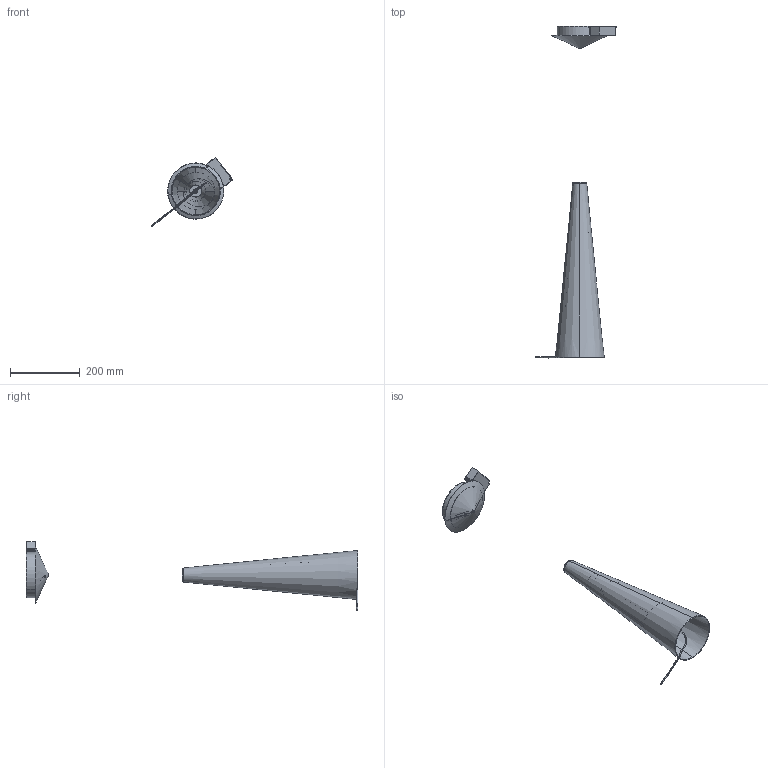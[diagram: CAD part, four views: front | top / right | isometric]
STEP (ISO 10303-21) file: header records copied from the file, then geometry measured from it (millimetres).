
FILE_DESCRIPTION (( 'STEP AP214' ), '1' );
FILE_NAME ('21010ME_Tavolo 50.STEP', '2023-11-21T16:07:14', ( '' ), ( '' ), 'SwSTEP 2.0', 'SolidWorks 2023', '' );
FILE_SCHEMA (( 'AUTOMOTIVE_DESIGN' ));
Length unit declared in the file: millimetre
Products named in the file (31): VIT-TSP_IC_VIT-0078; 521M007_00; VIT-TSP_EI_VIT-0140; VIT-TC_IC_VIT-0027; RAN-Dent_Con_RAN-107; Cavo tavolo_00; RAN-Dent_Est_RAN-101; VIT-TSP_IC_VIT-0146; MIN-0211_01; TRA-0233_00; Morsetto a vite Mammut_M093H_MOR-015 x 2; 521M008_00; 210E00x_210E003; 210V001_210V003; 21010ME_Tavolo 50; 210M001_00; 210M003_00; MIN-0089; Morsetto a vite Mammut_M093H_MOR-009; VIT-TSP_IC_VIT-0040; O-R_O-R024; 210M002_00; GRA-018_Steab_5408-10; DAD-DadiEsagonali_DAD-103; 210E001_258; DAD-DadiEsagonali_DAD-0108; DAD-DadiEsagonali_DAD-002; 210A002_MONTATURA - ROSONE USA; MIN-0211_Steab 5100-7-08-11; 521M006_FORI SVASATI; TRA-0241_00
Assembly tree (46 placements, depth 4):
  21010ME_Tavolo 50
    210V001_210V003
    210E001_258
    210E00x_210E003
    210M001_00
    210M002_00
    Cavo tavolo_00
    210M003_00
    O-R_O-R024
    VIT-TC_IC_VIT-0027
    210A002_MONTATURA - ROSONE USA
      521M006_FORI SVASATI
      521M007_00
      TRA-0241_00
      521M008_00
      MIN-0211_01
        MIN-0211_Steab 5100-7-08-11
        GRA-018_Steab_5408-10
      DAD-DadiEsagonali_DAD-002
      Morsetto a vite Mammut_M093H_MOR-009
      Morsetto a vite Mammut_M093H_MOR-015 x 2
      VIT-TSP_EI_VIT-0140
      TRA-0233_00
      RAN-Dent_Est_RAN-101  x4
      MIN-0089
      VIT-TSP_IC_VIT-0078  x3
      VIT-TSP_IC_VIT-0040  x4
      DAD-DadiEsagonali_DAD-103  x7
      RAN-Dent_Con_RAN-107
      VIT-TSP_IC_VIT-0146  x2
      DAD-DadiEsagonali_DAD-0108  x2
Bounding box: 233.08 x 951.21 x 197.95 mm (x, y, z)
Volume: 611851.8 mm3; surface area: 591637.4 mm2
Topology: 74 solids, 74 shells, 2320 faces, 5573 edges, 3413 vertices
Faces by surface type: plane 977, bspline 469, cone 415, cylinder 363, torus 80, sphere 16
Entity records: 51073 total; most frequent: CARTESIAN_POINT 15732, ORIENTED_EDGE 7182, DIRECTION 6811, EDGE_CURVE 3591, AXIS2_PLACEMENT_3D 2486, VERTEX_POINT 2269, LINE 1839, VECTOR 1839
